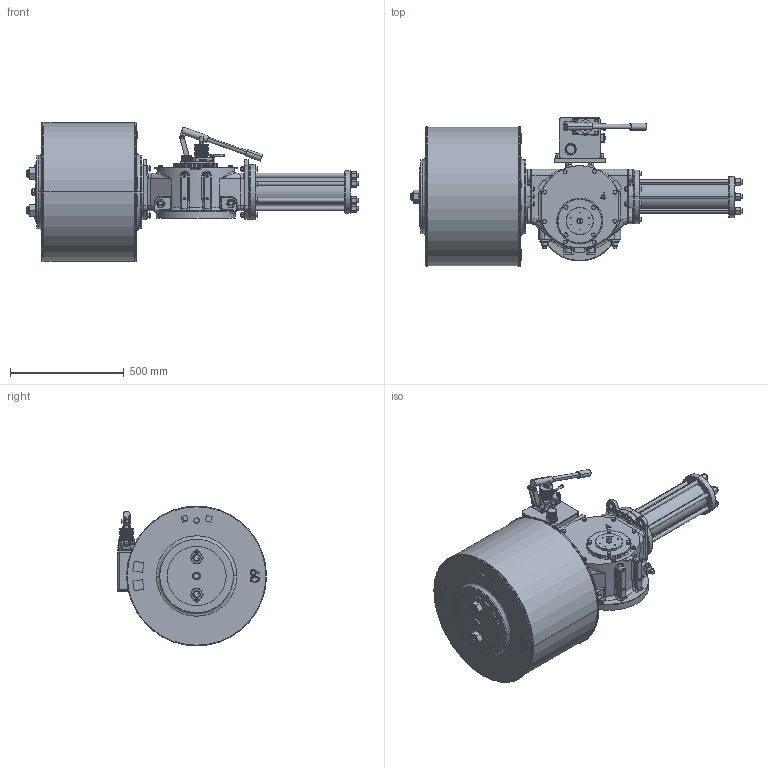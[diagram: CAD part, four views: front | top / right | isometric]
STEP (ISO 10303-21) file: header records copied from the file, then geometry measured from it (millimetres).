
FILE_DESCRIPTION (( 'STEP AP203' ), '1' );
FILE_NAME ('VTS4-600-MH.STEP', '2023-01-01T09:36:07', ( '' ), ( '' ), 'SwSTEP 2.0', 'SolidWorks 2020', '' );
FILE_SCHEMA (( 'CONFIG_CONTROL_DESIGN' ));
Length unit declared in the file: millimetre
Products named in the file (1): VTS4-600-MH
Bounding box: 1462 x 656.4 x 616 mm (x, y, z)
Volume: 164651303.5 mm3; surface area: 3536516.6 mm2
Topology: 71 solids, 74 shells, 2888 faces, 7093 edges, 4492 vertices
Faces by surface type: plane 1206, cylinder 941, cone 615, bspline 122, torus 4
Entity records: 99858 total; most frequent: CARTESIAN_POINT 31908, DIRECTION 14284, ORIENTED_EDGE 14074, EDGE_CURVE 7037, AXIS2_PLACEMENT_3D 5592, VERTEX_POINT 4492, EDGE_LOOP 3277, VECTOR 3100
